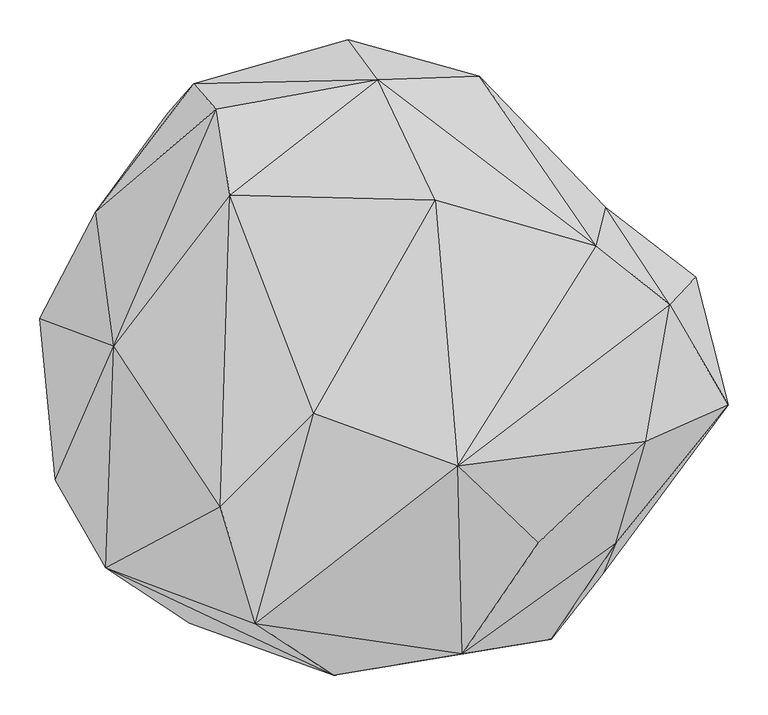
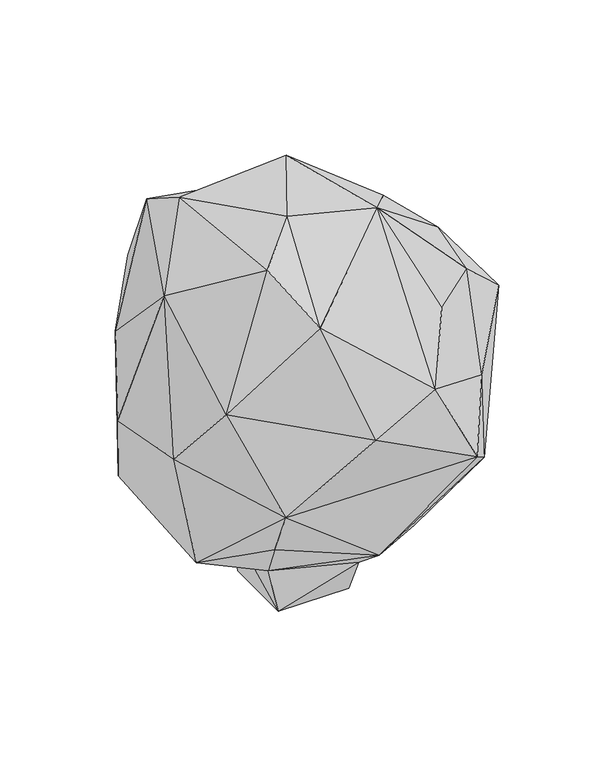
"""IFC4 building model written with IfcOpenShell, lengths in millimetres: geographic element geometry, Enscape AssetDefinition - Bush 135 Rose of Sharon : Enscape AssetDefinition - Bush 135 Rose of Sharon 2."""

from ifc_helpers import new_model, si_unit, origin, place, context, project, spatial, triangles, source, transform, mapped, element, save


def geographic_element_0aed4f9d(model_context):
    return source(origin(), model_context, "Body", "Tessellation", [
        triangles([(102.0707592, -81.1785024, -19.7295915), (109.1934349, -111.1943302, 62.4625527), (-70.876733, -81.1785024, -19.7295915), (-70.876733, 91.7689988, -19.7295915), (-323.0623664, 162.9685955, 272.1643649), (-63.4319567, 129.1457781, 66.1228489), (15.1084278, 240.0863265, 134.0587685), (-200.8366874, 276.7420651, 321.1220052), (-101.705974, -92.8827571, 103.5974283), (-198.6433074, -286.8233902, 309.299798), (-249.4970711, -41.9149016, 145.392806), (38.2483966, -322.0673326, 233.8104014), (-376.7203557, -166.9028757, 534.1014833), (-206.4567477, -348.4709899, 433.1305026), (-302.2578042, 2.2741032, 830.7159365), (-325.1253219, 172.6222758, 642.5793097), (-396.3661042, 36.9297271, 517.3336842), (-312.5324132, -278.5132143, 694.4800661), (-167.7519699, -201.6896695, 972.8047199), (-155.8505888, 193.2786095, 919.1389549), (31.6356462, 339.5399217, 792.6817755), (-201.1991471, 334.2109228, 698.4703022), (-172.4988822, 302.0171938, 855.5237972), (-5.4330112, 390.3889981, 588.146731), (308.0362123, 129.1558792, 800.0287834), (132.9287049, -149.8308163, 998.2049137), (104.2633579, 187.3077167, 940.0902197), (-49.4256577, -82.8456518, 999.999935), (234.5508541, -246.6765674, 761.8851088), (-123.1438461, -349.4388814, 896.6183819), (138.2662606, -387.3131684, 669.5937944), (159.9765543, 343.7815232, 636.6821405), (475.3636442, -72.1441792, 630.3915361), (434.249693, 89.5360228, 589.9256558), (400.7808057, 54.6871371, 729.5975447), (370.5143028, -118.4272281, 737.9931078), (-24.1179138, -414.6621895, 611.0313807), (251.1720052, -369.1793189, 443.4865929), (333.0132852, -247.2649036, 554.569202), (326.325285, 0.0814952, 281.1140729), (319.9019125, 177.3924607, 649.7500929), (228.5481318, 202.8166356, 216.6661717), (317.1124025, -285.6941168, 368.0896325), (382.504196, 12.3438005, 185.8834758), (216.000224, -163.9558717, 154.3758968), (91.4453358, 292.8036029, 215.5104828), (102.0707592, 91.7689988, -19.7295915), (-233.8624331, 297.2835075, 578.4278475)], [[45, 12, 2], [22, 48, 16], [5, 16, 48], [48, 8, 5], [22, 24, 48], [24, 8, 48], [8, 24, 7], [7, 24, 46], [46, 24, 32], [47, 7, 46], [42, 32, 41], [42, 46, 32], [46, 42, 47], [44, 45, 2], [47, 42, 44], [44, 2, 47], [38, 12, 43], [45, 43, 12], [43, 45, 44], [44, 42, 40], [44, 40, 43], [40, 42, 41], [40, 41, 34], [33, 40, 34], [40, 33, 43], [39, 38, 43], [39, 43, 33], [38, 39, 31], [31, 30, 37], [38, 31, 37], [39, 29, 31], [39, 33, 36], [36, 29, 39], [36, 33, 35], [34, 41, 35], [33, 34, 35], [35, 41, 25], [32, 25, 41], [29, 26, 31], [26, 35, 25], [26, 36, 35], [30, 31, 26], [29, 36, 26], [26, 28, 30], [27, 28, 26], [25, 27, 26], [25, 21, 27], [21, 32, 24], [21, 24, 22], [32, 21, 25], [22, 16, 23], [22, 23, 21], [20, 21, 23], [27, 21, 20], [27, 20, 28], [30, 28, 19], [28, 20, 19], [30, 19, 18], [37, 30, 18], [15, 20, 23], [23, 16, 15], [15, 19, 20], [18, 19, 15], [17, 16, 5], [15, 16, 17], [18, 15, 13], [15, 17, 13], [13, 14, 18], [38, 37, 14], [37, 18, 14], [12, 38, 14], [13, 11, 14], [17, 11, 13], [5, 11, 17], [14, 10, 12], [14, 11, 10], [9, 10, 11], [2, 12, 9], [10, 9, 12], [9, 11, 6], [5, 8, 6], [6, 8, 7], [47, 6, 7], [5, 6, 11], [6, 47, 4], [3, 2, 9], [9, 6, 3], [4, 3, 6], [3, 4, 47], [1, 3, 47], [47, 2, 1], [1, 2, 3]]),
    ])


if __name__ == "__main__":
    model = new_model("IFC4")
    model_context = context("Model", 3, world=origin())
    ifc_project = project(units=[si_unit("LENGTHUNIT", "METRE", prefix="MILLI")], contexts=[model_context])
    site = spatial("IfcSite", under=ifc_project)
    building = spatial("IfcBuilding", under=site)
    placement = place(None, origin())
    geographic_element_shape = geographic_element_0aed4f9d(model_context)
    element("IfcGeographicElement", 1, ObjectType="Enscape AssetDefinition - Bush 135 Rose of Sharon : Enscape AssetDefinition - Bush 135 Rose of Sharon 2", at=placement, inside=building, context=model_context, shape_type="MappedRepresentation", body=[
        mapped(geographic_element_shape, transform((0.0, 0.0, 0.0), x_axis=(1.0, 0.0, 0.0), y_axis=(0.0, 1.0, 0.0), z_axis=(0.0, 0.0, 1.0))),
    ])
    save(model, "model.ifc")
